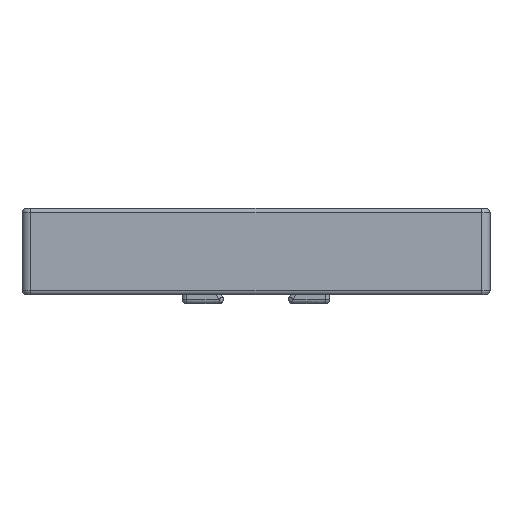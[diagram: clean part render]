
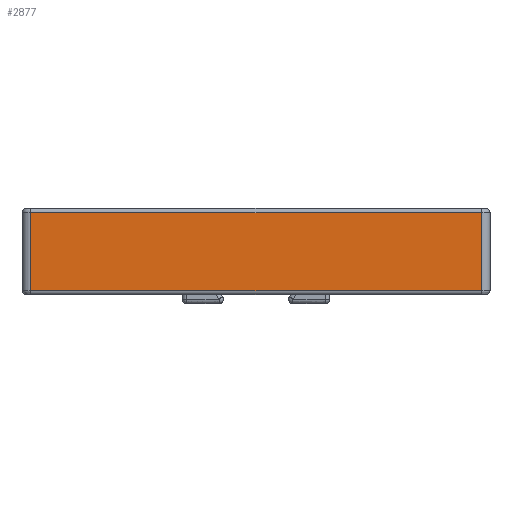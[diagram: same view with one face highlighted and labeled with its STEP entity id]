
A CAD part, front view. The second image highlights one B-rep face of the part: STEP entity #2877.
In plain terms, the highlighted planar face has unit normal (0, -1, 0).
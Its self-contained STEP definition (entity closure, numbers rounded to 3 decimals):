
#76=PLANE('',#3178);
#175=LINE('',#4878,#333);
#176=LINE('',#4881,#334);
#178=LINE('',#4887,#336);
#179=LINE('',#4888,#337);
#333=VECTOR('',#3747,10.);
#334=VECTOR('',#3750,10.);
#336=VECTOR('',#3756,10.);
#337=VECTOR('',#3757,10.);
#689=FACE_OUTER_BOUND('',#899,.T.);
#899=EDGE_LOOP('',(#2213,#2214,#2215,#2216));
#1340=VERTEX_POINT('',#4860);
#1342=VERTEX_POINT('',#4874);
#1343=VERTEX_POINT('',#4880);
#1345=VERTEX_POINT('',#4886);
#1653=EDGE_CURVE('',#1342,#1340,#175,.T.);
#1654=EDGE_CURVE('',#1340,#1343,#176,.T.);
#1657=EDGE_CURVE('',#1345,#1342,#178,.T.);
#1658=EDGE_CURVE('',#1343,#1345,#179,.T.);
#2213=ORIENTED_EDGE('',*,*,#1653,.F.);
#2214=ORIENTED_EDGE('',*,*,#1657,.F.);
#2215=ORIENTED_EDGE('',*,*,#1658,.F.);
#2216=ORIENTED_EDGE('',*,*,#1654,.F.);
#2877=ADVANCED_FACE('',(#689),#76,.T.);
#3178=AXIS2_PLACEMENT_3D('',#4885,#3754,#3755);
#3747=DIRECTION('',(0.,0.,-1.));
#3750=DIRECTION('',(-1.,0.,0.));
#3754=DIRECTION('center_axis',(0.,-1.,0.));
#3755=DIRECTION('ref_axis',(0.,0.,-1.));
#3756=DIRECTION('',(1.,0.,0.));
#3757=DIRECTION('',(0.,0.,1.));
#4860=CARTESIAN_POINT('',(46.,-50.,-9.5));
#4874=CARTESIAN_POINT('',(46.,-50.,-0.5));
#4878=CARTESIAN_POINT('',(46.,-50.,-1.25));
#4880=CARTESIAN_POINT('',(-6.,-50.,-9.5));
#4881=CARTESIAN_POINT('',(29.5,-50.,-9.5));
#4885=CARTESIAN_POINT('Origin',(39.,-50.,0.));
#4886=CARTESIAN_POINT('',(-6.,-50.,-0.5));
#4887=CARTESIAN_POINT('',(29.5,-50.,-0.5));
#4888=CARTESIAN_POINT('',(-6.,-50.,-1.25));
